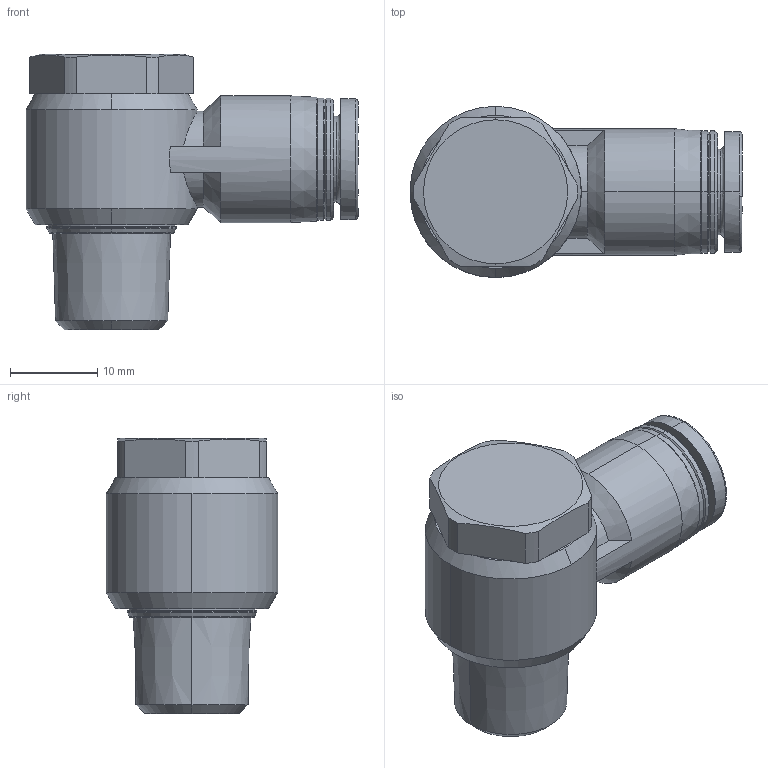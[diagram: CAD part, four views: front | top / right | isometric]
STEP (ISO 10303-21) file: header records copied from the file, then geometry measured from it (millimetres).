
FILE_DESCRIPTION (( 'STEP AP214' ), '1' );
FILE_NAME ('APH8-02.STEP', '2019-12-05T03:45:58', ( '微软用户' ), ( '微软中国' ), 'SwSTEP 2.0', 'SolidWorks 2016', '' );
FILE_SCHEMA (( 'AUTOMOTIVE_DESIGN' ));
Length unit declared in the file: millimetre
Products named in the file (1): APH8-02
Bounding box: 38 x 19.6 x 31.5 mm (x, y, z)
Volume: 9111.4 mm3; surface area: 3692.6 mm2
Topology: 1 solids, 1 shells, 97 faces, 235 edges, 147 vertices
Faces by surface type: plane 32, cone 29, cylinder 28, bspline 8
Entity records: 3242 total; most frequent: CARTESIAN_POINT 918, DIRECTION 512, ORIENTED_EDGE 470, EDGE_CURVE 235, AXIS2_PLACEMENT_3D 213, VERTEX_POINT 147, CIRCLE 123, EDGE_LOOP 104
